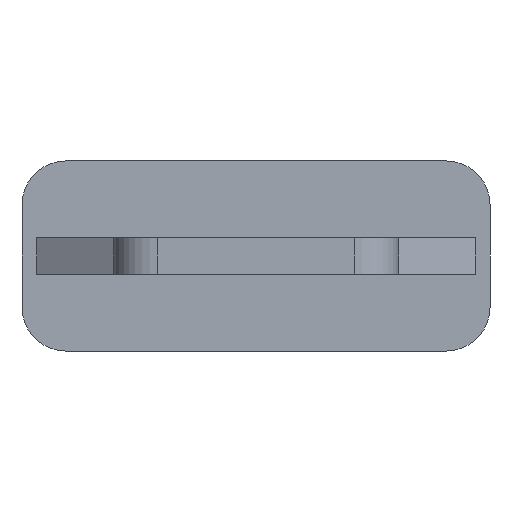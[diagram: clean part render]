
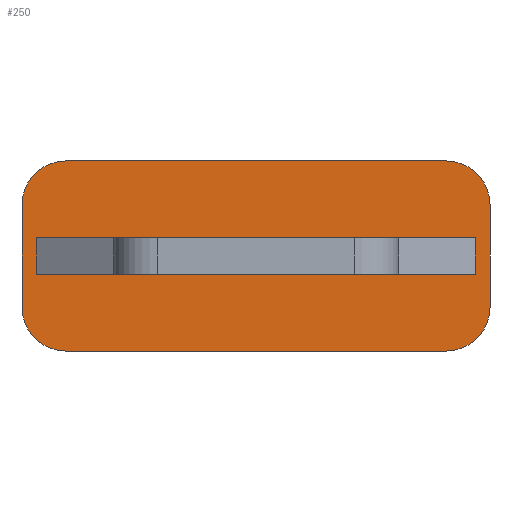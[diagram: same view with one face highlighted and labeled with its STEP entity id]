
A CAD part, front view. The second image highlights one B-rep face of the part: STEP entity #250.
In plain terms, the highlighted planar face has unit normal (0, -1, 0).
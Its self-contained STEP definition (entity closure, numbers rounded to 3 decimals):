
#244 = VERTEX_POINT ( 'NONE', #2778 ) ;
#250 = ADVANCED_FACE ( 'NONE', ( #2828, #2827 ), #2826, .F. ) ;
#252 = EDGE_LOOP ( 'NONE', ( #254, #257, #262, #299, #304, #306, #312, #318 ) ) ;
#254 = ORIENTED_EDGE ( 'NONE', *, *, #911, .F. ) ;
#257 = ORIENTED_EDGE ( 'NONE', *, *, #259, .T. ) ;
#259 = EDGE_CURVE ( 'NONE', #913, #260, #2806, .T. ) ;
#260 = VERTEX_POINT ( 'NONE', #2802 ) ;
#262 = ORIENTED_EDGE ( 'NONE', *, *, #294, .T. ) ;
#294 = EDGE_CURVE ( 'NONE', #260, #296, #2902, .T. ) ;
#296 = VERTEX_POINT ( 'NONE', #2898 ) ;
#299 = ORIENTED_EDGE ( 'NONE', *, *, #301, .T. ) ;
#301 = EDGE_CURVE ( 'NONE', #296, #244, #2951, .T. ) ;
#304 = ORIENTED_EDGE ( 'NONE', *, *, #331, .T. ) ;
#306 = ORIENTED_EDGE ( 'NONE', *, *, #308, .T. ) ;
#308 = EDGE_CURVE ( 'NONE', #326, #310, #2970, .T. ) ;
#310 = VERTEX_POINT ( 'NONE', #2965 ) ;
#312 = ORIENTED_EDGE ( 'NONE', *, *, #314, .T. ) ;
#314 = EDGE_CURVE ( 'NONE', #310, #316, #2960, .T. ) ;
#316 = VERTEX_POINT ( 'NONE', #2955 ) ;
#318 = ORIENTED_EDGE ( 'NONE', *, *, #321, .T. ) ;
#321 = EDGE_CURVE ( 'NONE', #316, #914, #3018, .T. ) ;
#323 = EDGE_LOOP ( 'NONE', ( #356, #358, #363, #366 ) ) ;
#326 = VERTEX_POINT ( 'NONE', #2996 ) ;
#331 = EDGE_CURVE ( 'NONE', #244, #326, #3050, .T. ) ;
#356 = ORIENTED_EDGE ( 'NONE', *, *, #479, .F. ) ;
#358 = ORIENTED_EDGE ( 'NONE', *, *, #361, .T. ) ;
#361 = EDGE_CURVE ( 'NONE', #475, #528, #3097, .T. ) ;
#363 = ORIENTED_EDGE ( 'NONE', *, *, #527, .T. ) ;
#366 = ORIENTED_EDGE ( 'NONE', *, *, #368, .F. ) ;
#368 = EDGE_CURVE ( 'NONE', #480, #530, #3086, .T. ) ;
#475 = VERTEX_POINT ( 'NONE', #3299 ) ;
#479 = EDGE_CURVE ( 'NONE', #475, #480, #3292, .T. ) ;
#480 = VERTEX_POINT ( 'NONE', #3288 ) ;
#527 = EDGE_CURVE ( 'NONE', #528, #530, #3356, .T. ) ;
#528 = VERTEX_POINT ( 'NONE', #3352 ) ;
#530 = VERTEX_POINT ( 'NONE', #3351 ) ;
#911 = EDGE_CURVE ( 'NONE', #913, #914, #4437, .T. ) ;
#913 = VERTEX_POINT ( 'NONE', #4429 ) ;
#914 = VERTEX_POINT ( 'NONE', #4428 ) ;
#2778 = CARTESIAN_POINT ( 'NONE',  ( -16., 46.8, 3.5 ) ) ;
#2802 = CARTESIAN_POINT ( 'NONE',  ( 13., 46.8, 6.5 ) ) ;
#2803 = DIRECTION ( 'NONE',  ( 0., 0., 1. ) ) ;
#2804 = DIRECTION ( 'NONE',  ( 0., -1., 0. ) ) ;
#2805 = AXIS2_PLACEMENT_3D ( 'NONE', #2816, #2804, #2803 ) ;
#2806 = CIRCLE ( 'NONE', #2805, 3. ) ;
#2816 = CARTESIAN_POINT ( 'NONE',  ( 13., 46.8, 3.5 ) ) ;
#2822 = DIRECTION ( 'NONE',  ( 0., 0., 1. ) ) ;
#2823 = DIRECTION ( 'NONE',  ( 0., 1., 0. ) ) ;
#2824 = AXIS2_PLACEMENT_3D ( 'NONE', #2825, #2823, #2822 ) ;
#2825 = CARTESIAN_POINT ( 'NONE',  ( -16., 46.8, 1.25 ) ) ;
#2826 = PLANE ( 'NONE',  #2824 ) ;
#2827 = FACE_BOUND ( 'NONE', #323, .T. ) ;
#2828 = FACE_OUTER_BOUND ( 'NONE', #252, .T. ) ;
#2898 = CARTESIAN_POINT ( 'NONE',  ( -13., 46.8, 6.5 ) ) ;
#2899 = DIRECTION ( 'NONE',  ( -1., 0., 0. ) ) ;
#2900 = VECTOR ( 'NONE', #2899, 1000. ) ;
#2901 = CARTESIAN_POINT ( 'NONE',  ( -13., 46.8, 6.5 ) ) ;
#2902 = LINE ( 'NONE', #2901, #2900 ) ;
#2933 = DIRECTION ( 'NONE',  ( 0., 0., 1. ) ) ;
#2934 = DIRECTION ( 'NONE',  ( 0., -1., 0. ) ) ;
#2950 = AXIS2_PLACEMENT_3D ( 'NONE', #2953, #2934, #2933 ) ;
#2951 = CIRCLE ( 'NONE', #2950, 3. ) ;
#2953 = CARTESIAN_POINT ( 'NONE',  ( -13., 46.8, 3.5 ) ) ;
#2955 = CARTESIAN_POINT ( 'NONE',  ( 13., 46.8, -6.5 ) ) ;
#2957 = DIRECTION ( 'NONE',  ( 1., 0., 0. ) ) ;
#2958 = VECTOR ( 'NONE', #2957, 1000. ) ;
#2959 = CARTESIAN_POINT ( 'NONE',  ( -13., 46.8, -6.5 ) ) ;
#2960 = LINE ( 'NONE', #2959, #2958 ) ;
#2965 = CARTESIAN_POINT ( 'NONE',  ( -13., 46.8, -6.5 ) ) ;
#2966 = DIRECTION ( 'NONE',  ( 0., 0., 1. ) ) ;
#2967 = DIRECTION ( 'NONE',  ( 0., -1., 0. ) ) ;
#2968 = CARTESIAN_POINT ( 'NONE',  ( -13., 46.8, -3.5 ) ) ;
#2969 = AXIS2_PLACEMENT_3D ( 'NONE', #2968, #2967, #2966 ) ;
#2970 = CIRCLE ( 'NONE', #2969, 3. ) ;
#2996 = CARTESIAN_POINT ( 'NONE',  ( -16., 46.8, -3.5 ) ) ;
#3000 = DIRECTION ( 'NONE',  ( 0., 0., 1. ) ) ;
#3016 = DIRECTION ( 'NONE',  ( 0., -1., 0. ) ) ;
#3017 = AXIS2_PLACEMENT_3D ( 'NONE', #3022, #3016, #3000 ) ;
#3018 = CIRCLE ( 'NONE', #3017, 3. ) ;
#3022 = CARTESIAN_POINT ( 'NONE',  ( 13., 46.8, -3.5 ) ) ;
#3047 = DIRECTION ( 'NONE',  ( 0., 0., -1. ) ) ;
#3048 = VECTOR ( 'NONE', #3047, 1000. ) ;
#3049 = CARTESIAN_POINT ( 'NONE',  ( -16., 46.8, 1.25 ) ) ;
#3050 = LINE ( 'NONE', #3049, #3048 ) ;
#3083 = DIRECTION ( 'NONE',  ( 0., 0., -1. ) ) ;
#3084 = VECTOR ( 'NONE', #3083, 1000. ) ;
#3085 = CARTESIAN_POINT ( 'NONE',  ( -15., 46.8, 1.25 ) ) ;
#3086 = LINE ( 'NONE', #3085, #3084 ) ;
#3094 = DIRECTION ( 'NONE',  ( 0., 0., -1. ) ) ;
#3095 = VECTOR ( 'NONE', #3094, 1000. ) ;
#3096 = CARTESIAN_POINT ( 'NONE',  ( 15., 46.8, 1.25 ) ) ;
#3097 = LINE ( 'NONE', #3096, #3095 ) ;
#3288 = CARTESIAN_POINT ( 'NONE',  ( -15., 46.8, 1.25 ) ) ;
#3289 = DIRECTION ( 'NONE',  ( -1., 0., 0. ) ) ;
#3290 = VECTOR ( 'NONE', #3289, 1000. ) ;
#3291 = CARTESIAN_POINT ( 'NONE',  ( 0.9, 46.8, 1.25 ) ) ;
#3292 = LINE ( 'NONE', #3291, #3290 ) ;
#3299 = CARTESIAN_POINT ( 'NONE',  ( 15., 46.8, 1.25 ) ) ;
#3351 = CARTESIAN_POINT ( 'NONE',  ( -15., 46.8, -1.25 ) ) ;
#3352 = CARTESIAN_POINT ( 'NONE',  ( 15., 46.8, -1.25 ) ) ;
#3353 = DIRECTION ( 'NONE',  ( -1., 0., 0. ) ) ;
#3354 = VECTOR ( 'NONE', #3353, 1000. ) ;
#3355 = CARTESIAN_POINT ( 'NONE',  ( 0.9, 46.8, -1.25 ) ) ;
#3356 = LINE ( 'NONE', #3355, #3354 ) ;
#4428 = CARTESIAN_POINT ( 'NONE',  ( 16., 46.8, -3.5 ) ) ;
#4429 = CARTESIAN_POINT ( 'NONE',  ( 16., 46.8, 3.5 ) ) ;
#4434 = DIRECTION ( 'NONE',  ( 0., 0., -1. ) ) ;
#4435 = VECTOR ( 'NONE', #4434, 1000. ) ;
#4436 = CARTESIAN_POINT ( 'NONE',  ( 16., 46.8, 1.25 ) ) ;
#4437 = LINE ( 'NONE', #4436, #4435 ) ;
